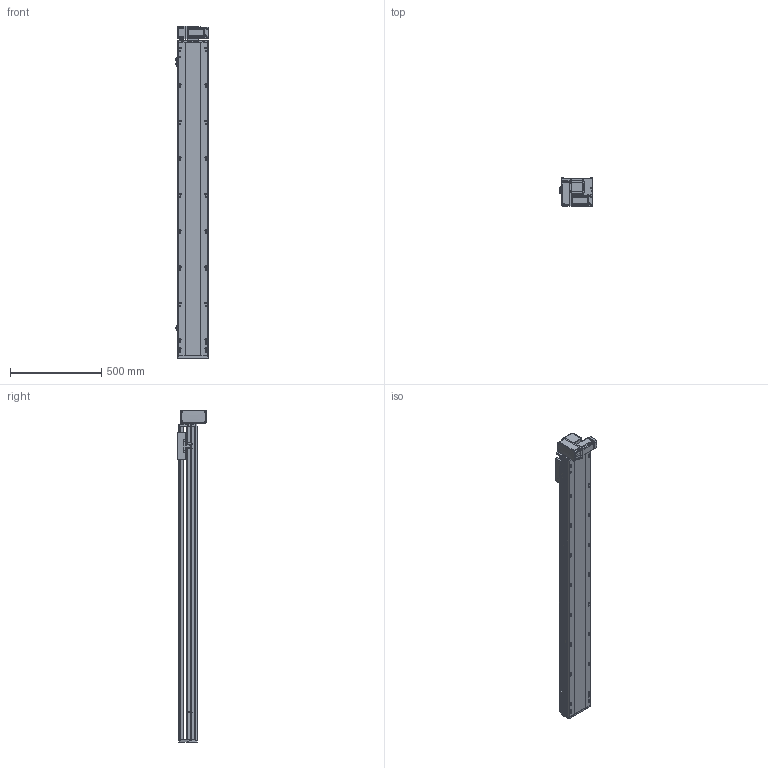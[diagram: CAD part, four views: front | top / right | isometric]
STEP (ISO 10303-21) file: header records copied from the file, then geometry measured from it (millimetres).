
FILE_DESCRIPTION (( 'STEP AP214' ), '1' );
FILE_NAME ('RTB17S-XX-1450-LM-M40-C4.STEP', '2025-12-11T06:29:08', ( '' ), ( '' ), 'SwSTEP 2.0', 'SolidWorks 2018', '' );
FILE_SCHEMA (( 'AUTOMOTIVE_DESIGN' ));
Length unit declared in the file: millimetre
Products named in the file (14): RTB17S-L-004佪裝蹟譫蟀諉釱^RTB17S-XX-XX-LM-M40-C4; RMP17S-L-014-T20--々湍釱^RTB17S-LM-々湍釱蚾饜-400W_RTB17S-XX-XX-LM-M40-C4; RTB14-L-018P^RTB17S-LM-々湍釱蚾饜-400W_RTB17S-XX-XX-LM-M40-C4; 400W侜督萇儂^RTB17S-XX-XX-LM-M40-C4; RTB17S-L-001耜醱啣^RTB17S-XX-XX-LM-M40-C4; RTB17S-XX-1450-LM-M40-C4; RTH13-BL-012覜茼え俋离^RTB17S-XX-XX-LM-M40-C4; RTB14-L-005P--轴承塑胶压盖^RTB17S-LM-皮带座装配-400W_RTB17S-XX-XX-LM-M40-C4; OMRON EE-SX672 传感器^RTB17S-XX-XX-LM-M40-C4; RTB14-L-017P^RTB17S-LM-々湍釱蚾饜-400W_RTB17S-XX-XX-LM-M40-C4; RTB17S-L-007奻裔^RTB17S-XX-XX-LM-M40-C4; RTB14-L-008-M20--萇儂啣^RTB17S-LM-々湍釱蚾饜-400W_RTB17S-XX-XX-LM-M40-C4; RTB17S-LM-々湍釱蚾饜-400W^RTB17S-XX-XX-LM-M40-C4; RTB17-R-011菁釱^RTB17S-XX-XX-LM-M40-C4
Assembly tree (16 placements, depth 3):
  RTB17S-XX-1450-LM-M40-C4
    RTB17-R-011菁釱^RTB17S-XX-XX-LM-M40-C4
    RTB17S-L-007奻裔^RTB17S-XX-XX-LM-M40-C4
    OMRON EE-SX672 传感器^RTB17S-XX-XX-LM-M40-C4  x3
    RTH13-BL-012覜茼え俋离^RTB17S-XX-XX-LM-M40-C4
    RTB17S-L-001耜醱啣^RTB17S-XX-XX-LM-M40-C4
    400W侜督萇儂^RTB17S-XX-XX-LM-M40-C4
    RTB17S-L-004佪裝蹟譫蟀諉釱^RTB17S-XX-XX-LM-M40-C4
    RTB17S-LM-々湍釱蚾饜-400W^RTB17S-XX-XX-LM-M40-C4
      RMP17S-L-014-T20--々湍釱^RTB17S-LM-々湍釱蚾饜-400W_RTB17S-XX-XX-LM-M40-C4
      RTB14-L-005P--轴承塑胶压盖^RTB17S-LM-皮带座装配-400W_RTB17S-XX-XX-LM-M40-C4
      RTB14-L-008-M20--萇儂啣^RTB17S-LM-々湍釱蚾饜-400W_RTB17S-XX-XX-LM-M40-C4
      RTB14-L-017P^RTB17S-LM-々湍釱蚾饜-400W_RTB17S-XX-XX-LM-M40-C4  x2
      RTB14-L-018P^RTB17S-LM-々湍釱蚾饜-400W_RTB17S-XX-XX-LM-M40-C4
Bounding box: 186 x 156.5 x 1822.5 mm (x, y, z)
Volume: 16038831.2 mm3; surface area: 1900044.6 mm2
Topology: 15 solids, 15 shells, 2253 faces, 6249 edges, 4077 vertices
Faces by surface type: plane 1074, cylinder 731, bspline 301, cone 139, torus 8
Entity records: 64937 total; most frequent: CARTESIAN_POINT 18254, ORIENTED_EDGE 9342, DIRECTION 8666, EDGE_CURVE 4671, VERTEX_POINT 3065, AXIS2_PLACEMENT_3D 2995, LINE 2676, VECTOR 2676
